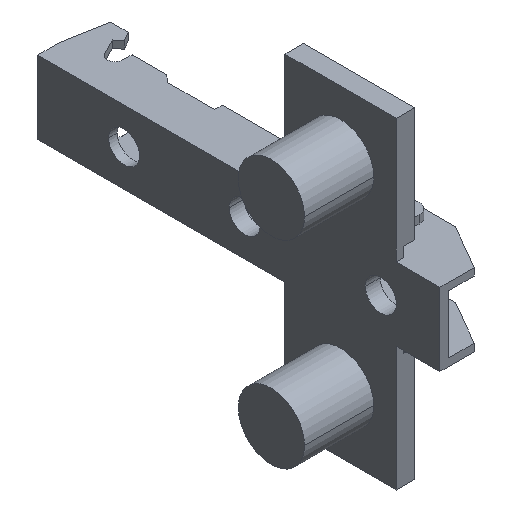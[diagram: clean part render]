
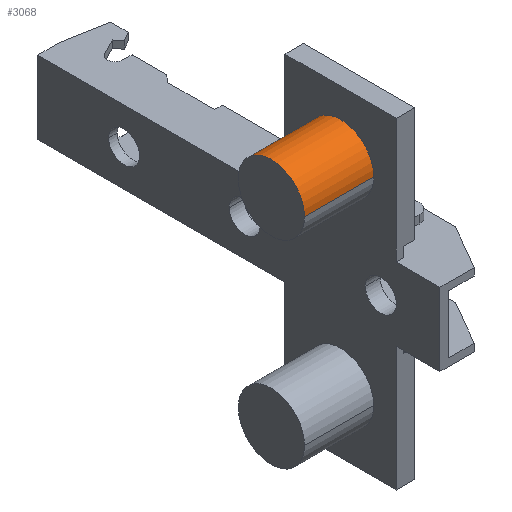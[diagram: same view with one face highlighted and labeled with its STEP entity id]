
A CAD part, isometric view. The second image highlights one B-rep face of the part: STEP entity #3068.
In plain terms, the highlighted cylindrical face has radius 5.35 mm (diameter 10.7 mm), a partial arc.
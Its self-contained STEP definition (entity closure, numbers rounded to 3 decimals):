
#91 = CARTESIAN_POINT ( 'NONE',  ( -11.2, 0., 16. ) ) ;
#95 = DIRECTION ( 'NONE',  ( 0., -1., 0. ) ) ;
#97 = DIRECTION ( 'NONE',  ( 1., 0., 0. ) ) ;
#263 = EDGE_LOOP ( 'NONE', ( #2538, #2539, #2540, #2541 ) ) ;
#658 = CYLINDRICAL_SURFACE ( 'NONE', #2705, 5.35 ) ;
#752 = FACE_OUTER_BOUND ( 'NONE', #263, .T. ) ;
#911 = CARTESIAN_POINT ( 'NONE',  ( 0., 0., 16. ) ) ;
#930 = DIRECTION ( 'NONE',  ( 1., 0., 0. ) ) ;
#954 = CARTESIAN_POINT ( 'NONE',  ( 0., 5.35, 16. ) ) ;
#956 = CARTESIAN_POINT ( 'NONE',  ( -11.2, 5.35, 16. ) ) ;
#1071 = DIRECTION ( 'NONE',  ( -1., 0., 0. ) ) ;
#1123 = CARTESIAN_POINT ( 'NONE',  ( -11.2, -5.35, 16. ) ) ;
#1156 = DIRECTION ( 'NONE',  ( 0., 1., 0. ) ) ;
#1348 = DIRECTION ( 'NONE',  ( 0., 1., 0. ) ) ;
#1494 = CARTESIAN_POINT ( 'NONE',  ( -11.2, 5.35, 16. ) ) ;
#1497 = DIRECTION ( 'NONE',  ( 1., 0., 0. ) ) ;
#1532 = CARTESIAN_POINT ( 'NONE',  ( 0., -5.35, 16. ) ) ;
#1536 = CARTESIAN_POINT ( 'NONE',  ( -11.2, -5.35, 16. ) ) ;
#1635 = DIRECTION ( 'NONE',  ( -1., 0., 0. ) ) ;
#1690 = CARTESIAN_POINT ( 'NONE',  ( -11.2, 0., 16. ) ) ;
#1804 = VERTEX_POINT ( 'NONE', #1532 ) ;
#1805 = VERTEX_POINT ( 'NONE', #1536 ) ;
#1820 = VERTEX_POINT ( 'NONE', #956 ) ;
#1821 = VERTEX_POINT ( 'NONE', #954 ) ;
#1973 = CIRCLE ( 'NONE', #2582, 5.35 ) ;
#2026 = VECTOR ( 'NONE', #930, 1000. ) ;
#2030 = LINE ( 'NONE', #1123, #2026 ) ;
#2118 = CIRCLE ( 'NONE', #2581, 5.35 ) ;
#2354 = VECTOR ( 'NONE', #1497, 1000. ) ;
#2360 = LINE ( 'NONE', #1494, #2354 ) ;
#2538 = ORIENTED_EDGE ( 'NONE', *, *, #2781, .F. ) ;
#2539 = ORIENTED_EDGE ( 'NONE', *, *, #2898, .F. ) ;
#2540 = ORIENTED_EDGE ( 'NONE', *, *, #2961, .T. ) ;
#2541 = ORIENTED_EDGE ( 'NONE', *, *, #2976, .T. ) ;
#2581 = AXIS2_PLACEMENT_3D ( 'NONE', #1690, #1635, #1348 ) ;
#2582 = AXIS2_PLACEMENT_3D ( 'NONE', #911, #1071, #1156 ) ;
#2705 = AXIS2_PLACEMENT_3D ( 'NONE', #91, #97, #95 ) ;
#2781 = EDGE_CURVE ( 'NONE', #1820, #1821, #2360, .T. ) ;
#2898 = EDGE_CURVE ( 'NONE', #1805, #1820, #2118, .T. ) ;
#2961 = EDGE_CURVE ( 'NONE', #1805, #1804, #2030, .T. ) ;
#2976 = EDGE_CURVE ( 'NONE', #1804, #1821, #1973, .T. ) ;
#3068 = ADVANCED_FACE ( 'NONE', ( #752 ), #658, .T. ) ;
